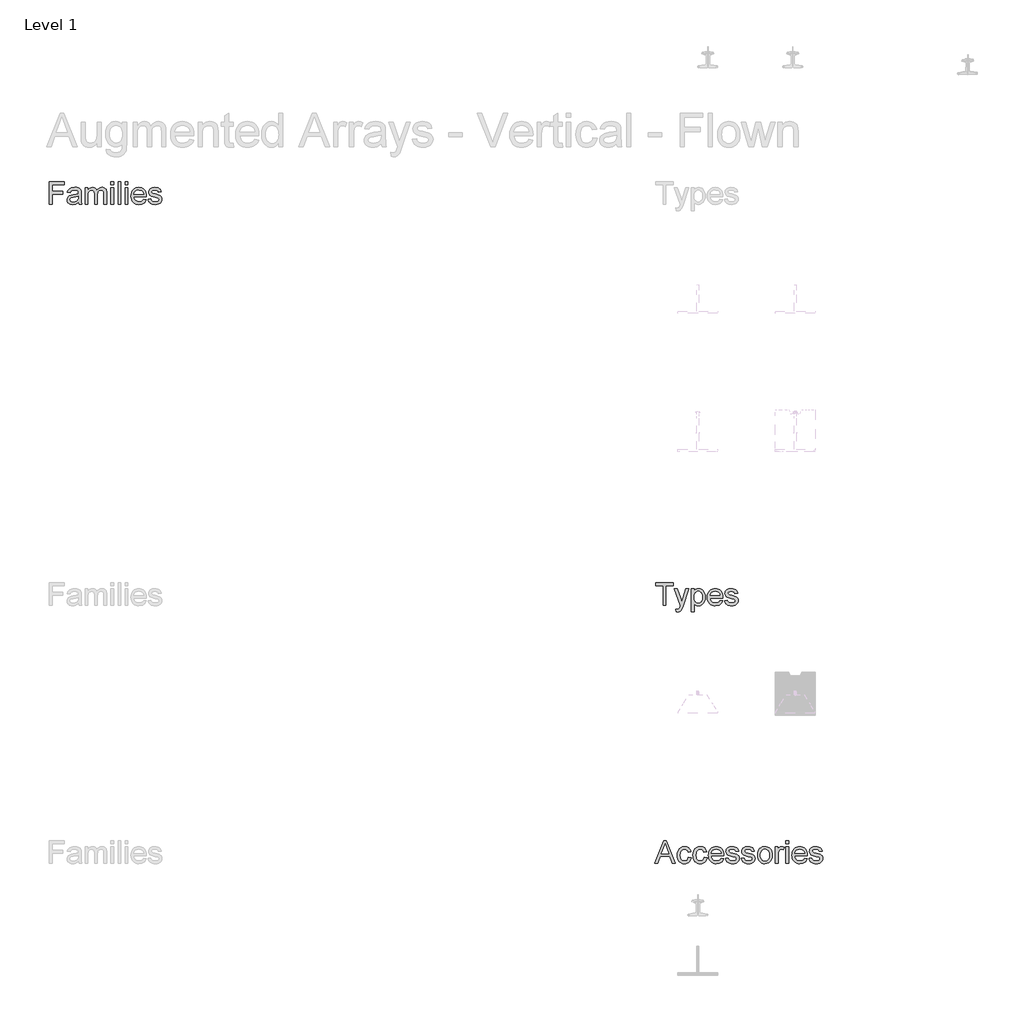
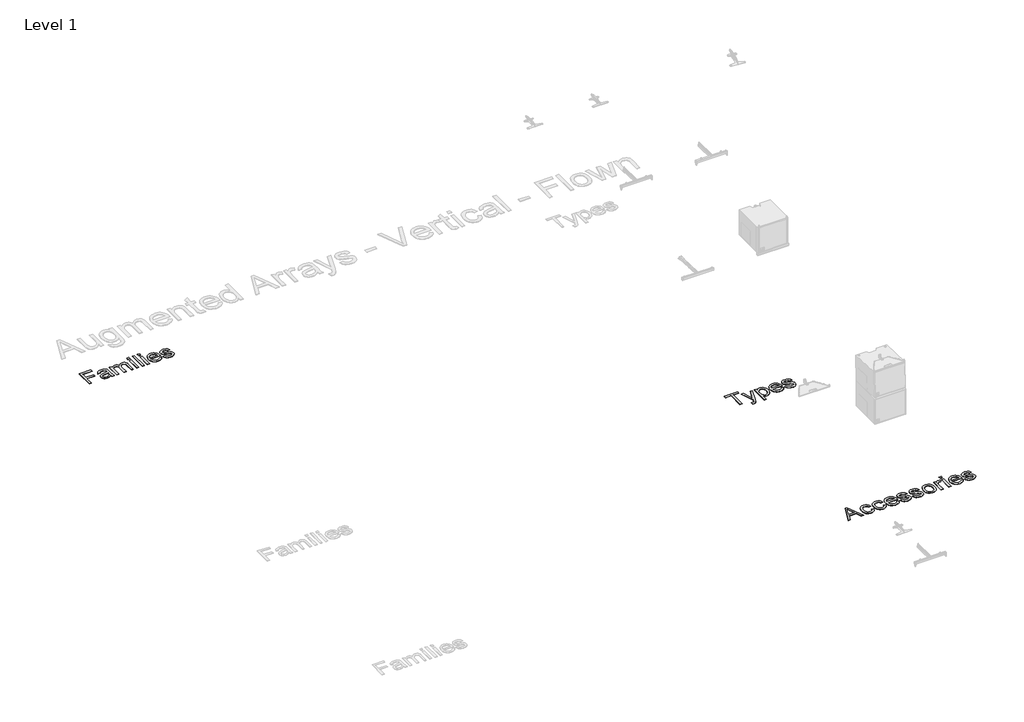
# One storey, part 2 of 9: 3 proxies.
"""IFC4 building model written with IfcOpenShell, lengths in millimetres."""

import ifcopenshell
import ifcopenshell.guid

model = None  # the IFC model being written
_history = None  # IfcOwnerHistory: only IFC2X3 demands one
_inside = {}  # id of a spatial element -> (the spatial element, [elements in it])
_under = {}  # id of a project, library or spatial element -> (it, [spatial elements below it])
_declared = {}  # id of a project -> (the project, [libraries it declares])
_typed = {}  # id of a type object -> (the type object, [elements of that type])
_made_of = {}  # id of a material, layer set ... -> (it, [elements and type objects made of it])


def new_model(schema):
    """Start an empty IFC model of exactly this schema.

    Asked for "IFC4X3", IfcOpenShell would pick the latest addendum, in which some entities
    have other attributes; the version numbers below select the first issue.
    IFC2X3 requires an IfcOwnerHistory on every rooted entity: one is made here for all.
    """
    global model, _history
    if schema == "IFC4X3":
        model = ifcopenshell.file(schema_version=(4, 3, 0, 0))
    else:
        model = ifcopenshell.file(schema=schema)
    _inside.clear()
    _under.clear()
    _declared.clear()
    _typed.clear()
    _made_of.clear()
    _history = None
    if model.schema == "IFC2X3":
        org = make("IfcOrganization", Name="unknown")
        user = make(
            "IfcPersonAndOrganization",
            ThePerson=make("IfcPerson", FamilyName="unknown"),
            TheOrganization=org,
        )
        app = make(
            "IfcApplication",
            ApplicationDeveloper=org,
            Version="unknown",
            ApplicationFullName="unknown",
            ApplicationIdentifier="unknown",
        )
        _history = make(
            "IfcOwnerHistory",
            OwningUser=user,
            OwningApplication=app,
            ChangeAction="ADDED",
            CreationDate=0,
        )
    return model


def make(cls, **values):
    """One entity of the class cls with the attributes given. An attribute that is None is left unset."""
    return model.create_entity(
        cls, **{name: value for name, value in values.items() if value is not None}
    )


def rooted(cls, **values):
    """An entity with a GlobalId (a new one), such as an element, a storey or a relation."""
    return make(cls, GlobalId=ifcopenshell.guid.new(), OwnerHistory=_history, **values)


def si_unit(unit_type, name, prefix=None):
    """IfcSIUnit, for example si_unit("LENGTHUNIT", "METRE", prefix="MILLI")."""
    return make("IfcSIUnit", UnitType=unit_type, Prefix=prefix, Name=name)


def assignment(units):
    """IfcUnitAssignment: the units of a project."""
    return None if units is None else make("IfcUnitAssignment", Units=units)


def point(xyz):
    """IfcCartesianPoint."""
    return None if xyz is None else make("IfcCartesianPoint", Coordinates=xyz)


def direction(xyz):
    """IfcDirection."""
    return None if xyz is None else make("IfcDirection", DirectionRatios=xyz)


def frame(location, z_axis=None, x_axis=None):
    """IfcAxis2Placement3D, a coordinate frame: its origin and axes. An axis left out is left unset."""
    return make(
        "IfcAxis2Placement3D",
        Location=point(location),
        Axis=direction(z_axis),
        RefDirection=direction(x_axis),
    )


def origin():
    """The frame at (0, 0, 0) with its axes left unset."""
    return frame((0.0, 0.0, 0.0))


def origin_with_axes():
    """The frame at (0, 0, 0) with the z axis (0, 0, 1) and the x axis (1, 0, 0) written out."""
    return frame((0.0, 0.0, 0.0), z_axis=(0.0, 0.0, 1.0), x_axis=(1.0, 0.0, 0.0))


def place(relative_to, where):
    """IfcLocalPlacement: puts the frame where relative to a parent placement (None: the world)."""
    return make(
        "IfcLocalPlacement", PlacementRelTo=relative_to, RelativePlacement=where
    )


def context(
    kind, dimensions, precision=None, world=None, true_north=None, identifier=None
):
    """IfcGeometricRepresentationContext, for example the 3D "Model" context."""
    return make(
        "IfcGeometricRepresentationContext",
        ContextIdentifier=identifier,
        ContextType=kind,
        CoordinateSpaceDimension=dimensions,
        Precision=precision,
        WorldCoordinateSystem=world,
        TrueNorth=true_north,
    )


def project(units=None, contexts=None):
    """IfcProject with its units and contexts."""
    return rooted(
        "IfcProject",
        Name="project",
        RepresentationContexts=contexts,
        UnitsInContext=assignment(units),
    )


def spatial(cls, under=None, at=None, **own):
    """A site, building, storey or space (cls), placed at a placement, below another one or the project."""
    s = rooted(cls, ObjectPlacement=at, **own)
    if under is not None:
        _under.setdefault(under.id(), (under, []))[1].append(s)
    return s


def polyline(points):
    """IfcPolyline through the points."""
    return make("IfcPolyline", Points=[point(p) for p in points])


def outline(outer, holes=None, kind="AREA"):
    """IfcArbitraryClosedProfileDef: a profile drawn as a closed curve; with holes, ...WithVoids."""
    if holes is None:
        return make("IfcArbitraryClosedProfileDef", ProfileType=kind, OuterCurve=outer)
    return make(
        "IfcArbitraryProfileDefWithVoids",
        ProfileType=kind,
        OuterCurve=outer,
        InnerCurves=holes,
    )


def extrude(swept, where, along, depth):
    """IfcExtrudedAreaSolid: the profile swept, set in the frame where, extruded along a direction by depth."""
    return make(
        "IfcExtrudedAreaSolid",
        SweptArea=swept,
        Position=where,
        ExtrudedDirection=direction(along),
        Depth=depth,
    )


def shape(context_of_items, identifier, shape_type, items):
    """IfcShapeRepresentation: the items that make up one representation, for example the "Body"."""
    return make(
        "IfcShapeRepresentation",
        ContextOfItems=context_of_items,
        RepresentationIdentifier=identifier,
        RepresentationType=shape_type,
        Items=items,
    )


def made_of(thing, what):
    """Note that an element or type object is made of a material, layer set ...; save() writes the relation."""
    if what is not None:
        _made_of.setdefault(what.id(), (what, []))[1].append(thing)
    return thing


def element(
    cls,
    number,
    at=None,
    inside=None,
    cuts=None,
    type_object=None,
    material=None,
    context=None,
    identifier="Body",
    shape_type=None,
    held_by="IfcProductDefinitionShape",
    body=None,
    shapes=None,
    **own,
):
    """One element of the class cls, such as IfcWall. Its Tag is "e" and its number.

    at: its placement. inside: the storey or other place that contains it. cuts: it is an
    opening in that element (IfcRelVoidsElement). A single representation is given by context,
    identifier, shape_type and body (its items); several are given by shapes. held_by: the class
    of the entity that holds the representations. save() writes the other relations.
    """
    e = rooted(cls, Tag="e%d" % number, ObjectPlacement=at, **own)
    if body is not None:
        shapes = [shape(context, identifier, shape_type, body)]
    if shapes is not None:
        e.Representation = make(held_by, Representations=shapes)
    if inside is not None:
        _inside.setdefault(inside.id(), (inside, []))[1].append(e)
    if cuts is not None:
        rooted(
            "IfcRelVoidsElement", RelatingBuildingElement=cuts, RelatedOpeningElement=e
        )
    if type_object is not None:
        _typed.setdefault(type_object.id(), (type_object, []))[1].append(e)
    return made_of(e, material)


def aggregate(whole, parts):
    """IfcRelAggregates: a whole, such as a stair, and the parts it consists of."""
    return rooted("IfcRelAggregates", RelatingObject=whole, RelatedObjects=parts)


def save(model, path):
    """Write the relations noted so far, then the file.

    IfcRelAggregates (storeys below a building ...), IfcRelContainedInSpatialStructure (elements
    in a storey), IfcRelDefinesByType, IfcRelAssociatesMaterial and IfcRelDeclares: one each for
    every whole, place, type object, material and project.
    """
    for whole, parts in _under.values():
        aggregate(whole, parts)
    for where, things in _inside.values():
        rooted(
            "IfcRelContainedInSpatialStructure",
            RelatedElements=things,
            RelatingStructure=where,
        )
    for kind, things in _typed.values():
        rooted("IfcRelDefinesByType", RelatedObjects=things, RelatingType=kind)
    for what, things in _made_of.values():
        rooted("IfcRelAssociatesMaterial", RelatedObjects=things, RelatingMaterial=what)
    for by, libraries in _declared.values():
        rooted("IfcRelDeclares", RelatingContext=by, RelatedDefinitions=libraries)
    model.write(path)


model = new_model("IFC4")

# Units and contexts
model_context = context("Model", 3, world=origin())
ifc_project = project(units=[si_unit("LENGTHUNIT", "METRE", prefix="MILLI")], contexts=[model_context])

# Site, building, storey
site = spatial("IfcSite", under=ifc_project)
building = spatial("IfcBuilding", under=site)
storey = spatial("IfcBuildingStorey", under=building, Name="Level 1", Elevation=0.0)

# Proxies
placement = place(None, origin())
element("IfcBuildingElementProxy", 1, Name="400mm Arial", ObjectType="400mm Arial", at=placement, inside=storey, context=model_context, shape_type="SweptSolid", body=[
    extrude(outline(polyline([(-21056.720891, -1648.6945164), (-21056.720891, -1256.9369407), (-20793.5087698, -1256.9369407), (-20793.5087698, -1305.9066376), (-21007.7511941, -1305.9066376), (-21007.7511941, -1422.2096679), (-20824.1148304, -1422.2096679), (-20824.1148304, -1471.1793649), (-21007.7511941, -1471.1793649), (-21007.7511941, -1648.6945164), (-21056.720891, -1648.6945164)])), origin_with_axes(), (0.0, 0.0, 1.0), 5.0),
    extrude(outline(polyline([(-20548.660285, -1611.9672437), (-20572.0571836, -1632.02856), (-20596.1475009, -1645.1556907), (-20621.4811893, -1652.4007191), (-20648.6082016, -1654.8157285), (-20670.4120309, -1653.3631362), (-20689.5318522, -1649.0053592), (-20705.9676654, -1641.7423976), (-20719.7194706, -1631.5742513), (-20730.5780466, -1619.1465169), (-20738.3341723, -1605.104791), (-20742.9878477, -1589.4490737), (-20744.5390729, -1572.1793649), (-20742.1957963, -1551.8789388), (-20735.1659668, -1533.4435695), (-20724.3223352, -1517.6623195), (-20710.5376524, -1505.3242513), (-20676.2493001, -1489.2560695), (-20633.879035, -1481.8914861), (-20583.8094327, -1474.144327), (-20548.9472168, -1465.0581528), (-20548.660285, -1454.1547437), (-20552.0317338, -1432.3001035), (-20562.1460804, -1418.0013346), (-20584.7658721, -1407.3848573), (-20616.2805501, -1403.8460316), (-20645.4519516, -1406.2012636), (-20665.8241107, -1413.2669596), (-20679.7163929, -1426.3343128), (-20689.4481638, -1446.6945164), (-20738.4178607, -1440.5733043), (-20729.9175056, -1413.7930013), (-20717.2327282, -1392.7513346), (-20699.1799346, -1376.6592418), (-20674.5755312, -1364.7276604), (-20644.4835568, -1357.339166), (-20609.9680501, -1354.8763346), (-20576.8632916, -1357.0522342), (-20550.6209857, -1363.5799331), (-20530.8346458, -1373.3953924), (-20517.097785, -1385.4345732), (-20507.9876997, -1400.3191613), (-20502.0816865, -1418.6708422), (-20499.690588, -1461.519327), (-20499.690588, -1522.4445164), (-20497.2038456, -1607.5198005), (-20487.4481638, -1648.6945164), (-20536.4178607, -1648.6945164), (-20544.2606638, -1631.6698952), (-20548.660285, -1611.9672437)]), holes=[polyline([(-20548.660285, -1514.0278498), (-20581.5618001, -1522.1814956), (-20627.6621789, -1529.0439482), (-20669.7933342, -1536.9823952), (-20680.7565208, -1542.4101888), (-20688.8743001, -1549.894327), (-20693.8956069, -1558.8609464), (-20695.5693759, -1568.7361831), (-20691.9229507, -1583.2979729), (-20680.9836751, -1595.2295543), (-20662.990659, -1603.1919123), (-20638.1830122, -1605.8460316), (-20611.8809289, -1602.9169359), (-20588.6394516, -1594.129649), (-20569.7975956, -1581.1818507), (-20556.6943759, -1565.771221), (-20550.8840066, -1549.894327), (-20548.9472168, -1527.896221), (-20548.660285, -1514.0278498)])]), origin_with_axes(), (0.0, 0.0, 1.0), 5.0),
    extrude(outline(polyline([(-20432.3572547, -1648.6945164), (-20432.3572547, -1360.9975467), (-20383.3875577, -1360.9975467), (-20383.3875577, -1408.3412967), (-20368.658391, -1386.594256), (-20349.720891, -1369.5576793), (-20327.2206543, -1358.5466708), (-20301.8032774, -1354.8763346), (-20274.5686657, -1358.6184037), (-20252.7379365, -1369.8446111), (-20236.4306448, -1387.8137162), (-20225.7663456, -1411.7844785), (-20207.9167954, -1386.8871656), (-20187.5565918, -1369.1033706), (-20164.6857348, -1358.4330936), (-20139.3042244, -1354.8763346), (-20119.7002057, -1356.3558268), (-20102.4932632, -1360.7943034), (-20087.683397, -1368.1917643), (-20075.2706069, -1378.5482096), (-20065.4581365, -1391.9831942), (-20058.4492291, -1408.6162731), (-20054.2438846, -1428.4474461), (-20052.8421032, -1451.4767134), (-20052.8421032, -1648.6945164), (-20101.8118001, -1648.6945164), (-20101.8118001, -1472.5183801), (-20106.3548872, -1431.630596), (-20112.7391202, -1420.3565666), (-20122.8056448, -1411.4975467), (-20135.7534431, -1405.7589104), (-20150.7814971, -1403.8460316), (-20177.3107348, -1408.7477835), (-20198.9382206, -1423.4530392), (-20207.3279874, -1434.7330463), (-20213.320678, -1448.96606), (-20218.1148304, -1486.2911073), (-20218.1148304, -1648.6945164), (-20267.0845274, -1648.6945164), (-20267.0845274, -1467.0666755), (-20269.9179791, -1439.3777551), (-20278.4183342, -1419.6272816), (-20293.3746552, -1407.7913441), (-20315.5760047, -1403.8460316), (-20334.4417717, -1406.4762399), (-20351.8250577, -1414.3668649), (-20366.1716486, -1427.3266187), (-20375.9273304, -1445.1642134), (-20381.5225009, -1469.9120827), (-20383.3875577, -1503.6026604), (-20383.3875577, -1648.6945164), (-20432.3572547, -1648.6945164)])), origin_with_axes(), (0.0, 0.0, 1.0), 5.0),
    extrude(outline(polyline([(-19979.3875577, -1648.6945164), (-19979.3875577, -1360.9975467), (-19930.4178607, -1360.9975467), (-19930.4178607, -1648.6945164), (-19979.3875577, -1648.6945164)])), origin_with_axes(), (0.0, 0.0, 1.0), 5.0),
    extrude(outline(polyline([(-19979.3875577, -1305.9066376), (-19979.3875577, -1256.9369407), (-19930.4178607, -1256.9369407), (-19930.4178607, -1305.9066376), (-19979.3875577, -1305.9066376)])), origin_with_axes(), (0.0, 0.0, 1.0), 5.0),
    extrude(outline(polyline([(-19856.9633153, -1648.6945164), (-19856.9633153, -1256.9369407), (-19807.9936183, -1256.9369407), (-19807.9936183, -1648.6945164), (-19856.9633153, -1648.6945164)])), origin_with_axes(), (0.0, 0.0, 1.0), 5.0),
    extrude(outline(polyline([(-19734.5390729, -1648.6945164), (-19734.5390729, -1360.9975467), (-19685.5693759, -1360.9975467), (-19685.5693759, -1648.6945164), (-19734.5390729, -1648.6945164)])), origin_with_axes(), (0.0, 0.0, 1.0), 5.0),
    extrude(outline(polyline([(-19734.5390729, -1305.9066376), (-19734.5390729, -1256.9369407), (-19685.5693759, -1256.9369407), (-19685.5693759, -1305.9066376), (-19734.5390729, -1305.9066376)])), origin_with_axes(), (0.0, 0.0, 1.0), 5.0),
    extrude(outline(polyline([(-19410.6886941, -1562.9975467), (-19362.6754365, -1569.1187589), (-19370.0370309, -1588.3491684), (-19379.975034, -1605.2960789), (-19392.4894457, -1619.9594904), (-19407.580266, -1632.3394028), (-19425.0920736, -1642.1727953), (-19444.8694469, -1649.1966471), (-19491.220891, -1654.8157285), (-19521.605775, -1652.3917525), (-19548.6789876, -1645.1198242), (-19572.4405288, -1632.9999437), (-19592.8903986, -1616.0321111), (-19609.3351784, -1594.6885683), (-19621.0814497, -1569.4415571), (-19628.1292125, -1540.2910777), (-19630.4784668, -1507.2371301), (-19628.1053015, -1473.062355), (-19620.9858058, -1442.9404918), (-19609.1199796, -1416.8715406), (-19592.5078229, -1394.8555013), (-19572.1117528, -1377.3646159), (-19548.8941865, -1364.8711263), (-19522.855124, -1357.3750325), (-19493.9945653, -1354.8763346), (-19466.0635461, -1357.3690548), (-19440.8045795, -1364.8472153), (-19418.2176654, -1377.3108161), (-19398.3028039, -1394.7598573), (-19382.0463231, -1416.7280747), (-19370.4345511, -1442.7492039), (-19363.4674879, -1472.8232451), (-19361.1451335, -1506.9501982), (-19361.4320653, -1520.1490619), (-19581.5087698, -1520.1490619), (-19578.6723292, -1539.6903142), (-19573.0323257, -1556.8046017), (-19564.5887592, -1571.4919241), (-19553.3416297, -1583.7522816), (-19524.9234242, -1600.3225941), (-19490.2644516, -1605.8460316), (-19464.2014782, -1603.2875562), (-19442.2511941, -1595.6121301), (-19424.4135994, -1582.3415335), (-19410.6886941, -1562.9975467)]), holes=[polyline([(-19581.5087698, -1471.1793649), (-19410.1148304, -1471.1793649), (-19416.7381732, -1445.3076793), (-19429.721838, -1426.800577), (-19443.076123, -1416.7579634), (-19458.2715539, -1409.5846679), (-19494.1858532, -1403.8460316), (-19527.1949677, -1408.4249852), (-19554.4893569, -1422.161846), (-19573.4627234, -1443.5741329), (-19581.5087698, -1471.1793649)])]), origin_with_axes(), (0.0, 0.0, 1.0), 5.0),
    extrude(outline(polyline([(-19330.5390729, -1562.9975467), (-19281.5693759, -1556.8763346), (-19273.8461278, -1577.8223573), (-19258.9017622, -1593.2210316), (-19236.6406354, -1602.6897816), (-19206.9671032, -1605.8460316), (-19177.6522357, -1602.9528024), (-19157.0409668, -1594.2731149), (-19144.8463645, -1581.6959369), (-19140.7814971, -1567.1102361), (-19144.8702755, -1554.628702), (-19157.1366107, -1545.1121301), (-19207.5409668, -1531.1481149), (-19281.2824441, -1507.1893081), (-19299.9449677, -1495.1501272), (-19313.4666297, -1479.2134558), (-19321.680053, -1460.3955107), (-19324.4178607, -1439.7125089), (-19322.2180501, -1420.7391424), (-19315.6186183, -1403.224346), (-19305.2173399, -1387.8615382), (-19291.6119895, -1375.3441376), (-19260.4798872, -1360.8540808), (-19218.3487319, -1354.8763346), (-19186.4753891, -1357.2793886), (-19158.7625577, -1364.4885505), (-19136.4775198, -1375.7984464), (-19120.8875577, -1390.503702), (-19110.5580122, -1409.6922674), (-19104.0542244, -1434.4520922), (-19153.0239213, -1440.5733043), (-19159.2049109, -1425.1626746), (-19171.4353797, -1413.5538914), (-19189.8348825, -1406.2729965), (-19214.5229744, -1403.8460316), (-19242.6422925, -1406.1653971), (-19261.3885047, -1413.1234937), (-19271.933249, -1423.1661073), (-19275.4481638, -1434.739024), (-19269.6138835, -1448.989971), (-19251.345891, -1459.7977361), (-19209.1669138, -1470.2229255), (-19137.2904933, -1493.2731149), (-19118.3051713, -1504.2960789), (-19103.9107585, -1519.3839104), (-19094.8365397, -1538.5844312), (-19091.8118001, -1561.9454634), (-19095.3625814, -1586.0955581), (-19106.0149251, -1608.8109937), (-19123.3623446, -1628.3104018), (-19146.9983532, -1642.8124142), (-19175.5480691, -1651.8149), (-19207.6366107, -1654.8157285), (-19233.9924938, -1653.369114), (-19257.0127944, -1649.0292702), (-19276.6975127, -1641.7961973), (-19293.0466486, -1631.6698952), (-19306.4009336, -1618.6981859), (-19317.1010994, -1602.9288914), (-19325.1471458, -1584.3620117), (-19330.5390729, -1562.9975467)])), origin_with_axes(), (0.0, 0.0, 1.0), 5.0),
])
element("IfcBuildingElementProxy", 2, Name="400mm Arial", ObjectType="400mm Arial", at=placement, inside=storey, context=model_context, shape_type="SweptSolid", body=[
    extrude(outline(polyline([(-10345.9583027, -8648.6945164), (-10345.9583027, -8305.9066376), (-10474.5037572, -8305.9066376), (-10474.5037572, -8256.9369407), (-10168.4431512, -8256.9369407), (-10168.4431512, -8305.9066376), (-10296.9886057, -8305.9066376), (-10296.9886057, -8648.6945164), (-10345.9583027, -8648.6945164)])), origin_with_axes(), (0.0, 0.0, 1.0), 5.0),
    extrude(outline(polyline([(-10119.4734542, -8758.8763346), (-10125.5946663, -8711.7238725), (-10100.7272421, -8716.0278498), (-10087.6479334, -8714.6768791), (-10077.4857648, -8710.6239672), (-10063.2348179, -8695.5600467), (-10049.8446663, -8659.5022816), (-10046.0189088, -8647.6424331), (-10150.0795148, -8360.9975467), (-10098.4317875, -8360.9975467), (-10043.2452345, -8520.7229255), (-10024.0208027, -8584.613077), (-10004.7963709, -8528.1831528), (-9948.0795148, -8360.9975467), (-9896.8143633, -8360.9975467), (-9996.9535679, -8655.5808801), (-10022.9687194, -8719.4710316), (-10036.2871379, -8739.8671017), (-10051.3749694, -8753.9984937), (-10068.9017213, -8762.2477835), (-10089.5369012, -8764.9975467), (-10119.4734542, -8758.8763346)])), origin_with_axes(), (0.0, 0.0, 1.0), 5.0),
    extrude(outline(polyline([(-9856.261333, -8758.8763346), (-9856.261333, -8360.9975467), (-9807.291636, -8360.9975467), (-9807.291636, -8409.0108043), (-9791.3190982, -8385.3269738), (-9773.4336815, -8368.409952), (-9752.5833027, -8358.259739), (-9727.7158785, -8354.8763346), (-9694.5991644, -8359.6107096), (-9665.6429618, -8373.8138346), (-9642.0667307, -8396.6249142), (-9625.0899315, -8427.1831528), (-9614.832119, -8463.2648289), (-9611.4128482, -8502.646221), (-9615.2744722, -8544.5263109), (-9626.8593444, -8581.9828687), (-9645.7968444, -8613.114971), (-9671.7163519, -8636.0216945), (-9701.9039703, -8650.11722), (-9733.6458027, -8654.8157285), (-9756.1579949, -8651.671434), (-9776.2551777, -8642.2385505), (-9793.4591313, -8627.999559), (-9807.291636, -8610.4369407), (-9807.291636, -8758.8763346), (-9856.261333, -8758.8763346)]), holes=[polyline([(-9807.291636, -8507.1414861), (-9801.9953529, -8551.0420543), (-9795.374999, -8568.0427645), (-9786.1065035, -8581.7437589), (-9762.6617828, -8599.8204634), (-9749.2447314, -8604.3396395), (-9734.697886, -8605.8460316), (-9719.9418195, -8604.2858398), (-9706.2796805, -8599.6052645), (-9682.2371853, -8580.8829634), (-9672.6757802, -8566.6858161), (-9665.8462052, -8549.0574426), (-9660.3825451, -8503.5070164), (-9665.7146947, -8459.8455581), (-9672.3798818, -8442.7133375), (-9681.7111436, -8428.7134558), (-9705.1199978, -8410.0628876), (-9718.3846166, -8405.4002456), (-9732.6893633, -8403.8460316), (-9746.9492769, -8405.4988784), (-9760.3663283, -8410.4574189), (-9784.6718444, -8430.2915808), (-9794.5680032, -8445.0117809), (-9801.6366881, -8462.7268318), (-9805.8778991, -8483.4367335), (-9807.291636, -8507.1414861)])]), origin_with_axes(), (0.0, 0.0, 1.0), 5.0),
    extrude(outline(polyline([(-9354.8958027, -8562.9975467), (-9306.8825451, -8569.1187589), (-9314.2441396, -8588.3491684), (-9324.1821427, -8605.2960789), (-9336.6965544, -8619.9594904), (-9351.7873747, -8632.3394028), (-9369.2991822, -8642.1727953), (-9389.0765555, -8649.1966471), (-9435.4279997, -8654.8157285), (-9465.8128837, -8652.3917525), (-9492.8860963, -8645.1198242), (-9516.6476375, -8632.9999437), (-9537.0975072, -8616.0321111), (-9553.5422871, -8594.6885683), (-9565.2885584, -8569.4415571), (-9572.3363212, -8540.2910777), (-9574.6855754, -8507.2371301), (-9572.3124102, -8473.062355), (-9565.1929144, -8442.9404918), (-9553.3270882, -8416.8715406), (-9536.7149315, -8394.8555013), (-9516.3188614, -8377.3646159), (-9493.1012951, -8364.8711263), (-9467.0622326, -8357.3750325), (-9438.2016739, -8354.8763346), (-9410.2706547, -8357.3690548), (-9385.0116881, -8364.8472153), (-9362.4247741, -8377.3108161), (-9342.5099125, -8394.7598573), (-9326.2534317, -8416.7280747), (-9314.6416597, -8442.7492039), (-9307.6745965, -8472.8232451), (-9305.3522421, -8506.9501982), (-9305.6391739, -8520.1490619), (-9525.7158785, -8520.1490619), (-9522.8794379, -8539.6903142), (-9517.2394343, -8556.8046017), (-9508.7958678, -8571.4919241), (-9497.5487383, -8583.7522816), (-9469.1305328, -8600.3225941), (-9434.4715603, -8605.8460316), (-9408.4085868, -8603.2875562), (-9386.4583027, -8595.6121301), (-9368.620708, -8582.3415335), (-9354.8958027, -8562.9975467)]), holes=[polyline([(-9525.7158785, -8471.1793649), (-9354.3219391, -8471.1793649), (-9360.9452819, -8445.3076793), (-9373.9289466, -8426.800577), (-9387.2832317, -8416.7579634), (-9402.4786625, -8409.5846679), (-9438.3929618, -8403.8460316), (-9471.4020764, -8408.4249852), (-9498.6964656, -8422.161846), (-9517.6698321, -8443.5741329), (-9525.7158785, -8471.1793649)])]), origin_with_axes(), (0.0, 0.0, 1.0), 5.0),
    extrude(outline(polyline([(-9274.7461815, -8562.9975467), (-9225.7764845, -8556.8763346), (-9218.0532364, -8577.8223573), (-9203.1088709, -8593.2210316), (-9180.847744, -8602.6897816), (-9151.1742118, -8605.8460316), (-9121.8593444, -8602.9528024), (-9101.2480754, -8594.2731149), (-9089.0534732, -8581.6959369), (-9084.9886057, -8567.1102361), (-9089.0773841, -8554.628702), (-9101.3437194, -8545.1121301), (-9151.7480754, -8531.1481149), (-9225.4895527, -8507.1893081), (-9244.1520764, -8495.1501272), (-9257.6737383, -8479.2134558), (-9265.8871616, -8460.3955107), (-9268.6249694, -8439.7125089), (-9266.4251588, -8420.7391424), (-9259.8257269, -8403.224346), (-9249.4244485, -8387.8615382), (-9235.8190982, -8375.3441376), (-9204.6869959, -8360.8540808), (-9162.5558406, -8354.8763346), (-9130.6824978, -8357.2793886), (-9102.9696663, -8364.4885505), (-9080.6846285, -8375.7984464), (-9065.0946663, -8390.503702), (-9054.7651209, -8409.6922674), (-9048.261333, -8434.4520922), (-9097.23103, -8440.5733043), (-9103.4120196, -8425.1626746), (-9115.6424883, -8413.5538914), (-9134.0419911, -8406.2729965), (-9158.730083, -8403.8460316), (-9186.8494012, -8406.1653971), (-9205.5956133, -8413.1234937), (-9216.1403576, -8423.1661073), (-9219.6552724, -8434.739024), (-9213.8209921, -8448.989971), (-9195.5529997, -8459.7977361), (-9153.3740224, -8470.2229255), (-9081.4976019, -8493.2731149), (-9062.51228, -8504.2960789), (-9048.1178671, -8519.3839104), (-9039.0436483, -8538.5844312), (-9036.0189088, -8561.9454634), (-9039.56969, -8586.0955581), (-9050.2220338, -8608.8109937), (-9067.5694533, -8628.3104018), (-9091.2054618, -8642.8124142), (-9119.7551777, -8651.8149), (-9151.8437194, -8654.8157285), (-9178.1996024, -8653.369114), (-9201.2199031, -8649.0292702), (-9220.9046214, -8641.7961973), (-9237.2537572, -8631.6698952), (-9250.6080423, -8618.6981859), (-9261.308208, -8602.9288914), (-9269.3542544, -8584.3620117), (-9274.7461815, -8562.9975467)])), origin_with_axes(), (0.0, 0.0, 1.0), 5.0),
])
element("IfcBuildingElementProxy", 3, Name="400mm Arial", ObjectType="400mm Arial", at=placement, inside=storey, context=model_context, shape_type="SweptSolid", body=[
    extrude(outline(polyline([(-10489.5198557, -13148.6945164), (-10333.1420148, -12756.9369407), (-10291.4412572, -12756.9369407), (-10135.0634163, -13148.6945164), (-10186.8067875, -13148.6945164), (-10231.6637951, -13026.270274), (-10393.0151209, -13026.270274), (-10437.7764845, -13148.6945164), (-10489.5198557, -13148.6945164)]), holes=[polyline([(-10375.0340603, -12977.300577), (-10249.5492118, -12977.300577), (-10284.8418254, -12880.9871301), (-10312.291636, -12805.9066376), (-10336.6808406, -12872.5704634), (-10375.0340603, -12977.300577)])]), origin_with_axes(), (0.0, 0.0, 1.0), 5.0),
    extrude(outline(polyline([(-9905.23103, -13044.6339104), (-9856.261333, -13050.7551225), (-9861.5875049, -13073.8621005), (-9869.9145054, -13094.3089814), (-9881.2423344, -13112.0957652), (-9895.5709921, -13127.222452), (-9912.296726, -13139.2945105), (-9930.8157838, -13147.9174094), (-9951.1281654, -13153.0911488), (-9973.2338709, -13154.8157285), (-10000.6986259, -13152.4096857), (-10025.3239514, -13145.1915571), (-10047.1098474, -13133.1613429), (-10066.0563141, -13116.3190429), (-10081.392222, -13094.9814778), (-10092.3464419, -13069.4654681), (-10098.9189739, -13039.7710138), (-10101.1098179, -13005.8981149), (-10097.3677487, -12962.320345), (-10086.1415413, -12924.5529445), (-10067.2518633, -12894.0544833), (-10040.5193822, -12872.2835316), (-10008.53844, -12859.2281339), (-9973.9033785, -12854.8763346), (-9952.1772598, -12856.3707712), (-9932.5254192, -12860.8540808), (-9914.9478564, -12868.3262636), (-9899.4445716, -12878.7873195), (-9886.2785856, -12891.9981386), (-9875.7129192, -12907.7196111), (-9867.7475723, -12925.9517371), (-9862.3825451, -12946.6945164), (-9911.3522421, -12952.8157285), (-9920.235173, -12931.4512636), (-9934.0676777, -12916.1362778), (-9952.0846048, -12906.9185931), (-9973.5208027, -12903.8460316), (-9990.1598593, -12905.3584014), (-10005.1669911, -12909.8955107), (-10018.5421983, -12917.4573597), (-10030.2854807, -12928.0439482), (-10039.8468858, -12941.900364), (-10046.6764608, -12959.2716945), (-10052.1401209, -13004.5590998), (-10046.7960158, -13050.4562352), (-10040.1158844, -13067.9441317), (-10030.7637004, -13081.7915808), (-10019.2535501, -13092.315403), (-10006.0995196, -13099.8324189), (-9991.3016088, -13104.3426284), (-9974.8598179, -13105.8460316), (-9949.5022184, -13102.092007), (-9928.7116171, -13090.8299331), (-9913.5879192, -13071.7728782), (-9905.23103, -13044.6339104)])), origin_with_axes(), (0.0, 0.0, 1.0), 5.0),
    extrude(outline(polyline([(-9629.7764845, -13044.6339104), (-9580.8067875, -13050.7551225), (-9586.1329594, -13073.8621005), (-9594.4599599, -13094.3089814), (-9605.787789, -13112.0957652), (-9620.1164466, -13127.222452), (-9636.8421805, -13139.2945105), (-9655.3612383, -13147.9174094), (-9675.6736199, -13153.0911488), (-9697.7793254, -13154.8157285), (-9725.2440804, -13152.4096857), (-9749.8694059, -13145.1915571), (-9771.655302, -13133.1613429), (-9790.6017686, -13116.3190429), (-9805.9376765, -13094.9814778), (-9816.8918964, -13069.4654681), (-9823.4644284, -13039.7710138), (-9825.6552724, -13005.8981149), (-9821.9132033, -12962.320345), (-9810.6869959, -12924.5529445), (-9791.7973179, -12894.0544833), (-9765.0648368, -12872.2835316), (-9733.0838946, -12859.2281339), (-9698.448833, -12854.8763346), (-9676.7227144, -12856.3707712), (-9657.0708737, -12860.8540808), (-9639.493311, -12868.3262636), (-9623.9900262, -12878.7873195), (-9610.8240402, -12891.9981386), (-9600.2583737, -12907.7196111), (-9592.2930269, -12925.9517371), (-9586.9279997, -12946.6945164), (-9635.8976966, -12952.8157285), (-9644.7806275, -12931.4512636), (-9658.6131322, -12916.1362778), (-9676.6300593, -12906.9185931), (-9698.0662572, -12903.8460316), (-9714.7053138, -12905.3584014), (-9729.7124457, -12909.8955107), (-9743.0876528, -12917.4573597), (-9754.8309353, -12928.0439482), (-9764.3923403, -12941.900364), (-9771.2219154, -12959.2716945), (-9776.6855754, -13004.5590998), (-9771.3414703, -13050.4562352), (-9764.6613389, -13067.9441317), (-9755.309155, -13081.7915808), (-9743.7990046, -13092.315403), (-9730.6449741, -13099.8324189), (-9715.8470634, -13104.3426284), (-9699.4052724, -13105.8460316), (-9674.047673, -13102.092007), (-9653.2570716, -13090.8299331), (-9638.1333737, -13071.7728782), (-9629.7764845, -13044.6339104)])), origin_with_axes(), (0.0, 0.0, 1.0), 5.0),
    extrude(outline(polyline([(-9336.5321663, -13062.9975467), (-9288.5189088, -13069.1187589), (-9295.8805032, -13088.3491684), (-9305.8185063, -13105.2960789), (-9318.332918, -13119.9594904), (-9333.4237383, -13132.3394028), (-9350.9355458, -13142.1727953), (-9370.7129192, -13149.1966471), (-9417.0643633, -13154.8157285), (-9447.4492473, -13152.3917525), (-9474.5224599, -13145.1198242), (-9498.2840011, -13132.9999437), (-9518.7338709, -13116.0321111), (-9535.1786507, -13094.6885683), (-9546.924922, -13069.4415571), (-9553.9726848, -13040.2910777), (-9556.3219391, -13007.2371301), (-9553.9487738, -12973.062355), (-9546.8292781, -12942.9404918), (-9534.9634518, -12916.8715406), (-9518.3512951, -12894.8555013), (-9497.955225, -12877.3646159), (-9474.7376588, -12864.8711263), (-9448.6985963, -12857.3750325), (-9419.8380375, -12854.8763346), (-9391.9070184, -12857.3690548), (-9366.6480518, -12864.8472153), (-9344.0611377, -12877.3108161), (-9324.1462762, -12894.7598573), (-9307.8897954, -12916.7280747), (-9296.2780233, -12942.7492039), (-9289.3109601, -12972.8232451), (-9286.9886057, -13006.9501982), (-9287.2755375, -13020.1490619), (-9507.3522421, -13020.1490619), (-9504.5158015, -13039.6903142), (-9498.875798, -13056.8046017), (-9490.4322314, -13071.4919241), (-9479.1851019, -13083.7522816), (-9450.7668964, -13100.3225941), (-9416.1079239, -13105.8460316), (-9390.0449504, -13103.2875562), (-9368.0946663, -13095.6121301), (-9350.2570716, -13082.3415335), (-9336.5321663, -13062.9975467)]), holes=[polyline([(-9507.3522421, -12971.1793649), (-9335.9583027, -12971.1793649), (-9342.5816455, -12945.3076793), (-9355.5653103, -12926.800577), (-9368.9195953, -12916.7579634), (-9384.1150262, -12909.5846679), (-9420.0293254, -12903.8460316), (-9453.03844, -12908.4249852), (-9480.3328292, -12922.161846), (-9499.3061957, -12943.5741329), (-9507.3522421, -12971.1793649)])]), origin_with_axes(), (0.0, 0.0, 1.0), 5.0),
    extrude(outline(polyline([(-9256.3825451, -13062.9975467), (-9207.4128482, -13056.8763346), (-9199.6896, -13077.8223573), (-9184.7452345, -13093.2210316), (-9162.4841076, -13102.6897816), (-9132.8105754, -13105.8460316), (-9103.495708, -13102.9528024), (-9082.8844391, -13094.2731149), (-9070.6898368, -13081.6959369), (-9066.6249694, -13067.1102361), (-9070.7137478, -13054.628702), (-9082.980083, -13045.1121301), (-9133.3844391, -13031.1481149), (-9207.1259163, -13007.1893081), (-9225.78844, -12995.1501272), (-9239.3101019, -12979.2134558), (-9247.5235252, -12960.3955107), (-9250.261333, -12939.7125089), (-9248.0615224, -12920.7391424), (-9241.4620906, -12903.224346), (-9231.0608122, -12887.8615382), (-9217.4554618, -12875.3441376), (-9186.3233595, -12860.8540808), (-9144.1922042, -12854.8763346), (-9112.3188614, -12857.2793886), (-9084.60603, -12864.4885505), (-9062.3209921, -12875.7984464), (-9046.73103, -12890.503702), (-9036.4014845, -12909.6922674), (-9029.8976966, -12934.4520922), (-9078.8673936, -12940.5733043), (-9085.0483832, -12925.1626746), (-9097.2788519, -12913.5538914), (-9115.6783548, -12906.2729965), (-9140.3664466, -12903.8460316), (-9168.4857648, -12906.1653971), (-9187.2319769, -12913.1234937), (-9197.7767213, -12923.1661073), (-9201.291636, -12934.739024), (-9195.4573557, -12948.989971), (-9177.1893633, -12959.7977361), (-9135.010386, -12970.2229255), (-9063.1339656, -12993.2731149), (-9044.1486436, -13004.2960789), (-9029.7542307, -13019.3839104), (-9020.680012, -13038.5844312), (-9017.6552724, -13061.9454634), (-9021.2060536, -13086.0955581), (-9031.8583974, -13108.8109937), (-9049.2058169, -13128.3104018), (-9072.8418254, -13142.8124142), (-9101.3915413, -13151.8149), (-9133.480083, -13154.8157285), (-9159.8359661, -13153.369114), (-9182.8562667, -13149.0292702), (-9202.540985, -13141.7961973), (-9218.8901209, -13131.6698952), (-9232.2444059, -13118.6981859), (-9242.9445716, -13102.9288914), (-9250.990618, -13084.3620117), (-9256.3825451, -13062.9975467)])), origin_with_axes(), (0.0, 0.0, 1.0), 5.0),
    extrude(outline(polyline([(-8980.9279997, -13062.9975467), (-8931.9583027, -13056.8763346), (-8924.2350546, -13077.8223573), (-8909.2906891, -13093.2210316), (-8887.0295622, -13102.6897816), (-8857.35603, -13105.8460316), (-8828.0411625, -13102.9528024), (-8807.4298936, -13094.2731149), (-8795.2352913, -13081.6959369), (-8791.1704239, -13067.1102361), (-8795.2592023, -13054.628702), (-8807.5255375, -13045.1121301), (-8857.9298936, -13031.1481149), (-8931.6713709, -13007.1893081), (-8950.3338946, -12995.1501272), (-8963.8555565, -12979.2134558), (-8972.0689798, -12960.3955107), (-8974.8067875, -12939.7125089), (-8972.6069769, -12920.7391424), (-8966.0075451, -12903.224346), (-8955.6062667, -12887.8615382), (-8942.0009163, -12875.3441376), (-8910.8688141, -12860.8540808), (-8868.7376588, -12854.8763346), (-8836.864316, -12857.2793886), (-8809.1514845, -12864.4885505), (-8786.8664466, -12875.7984464), (-8771.2764845, -12890.503702), (-8760.9469391, -12909.6922674), (-8754.4431512, -12934.4520922), (-8803.4128482, -12940.5733043), (-8809.5938377, -12925.1626746), (-8821.8243065, -12913.5538914), (-8840.2238093, -12906.2729965), (-8864.9119012, -12903.8460316), (-8893.0312194, -12906.1653971), (-8911.7774315, -12913.1234937), (-8922.3221758, -12923.1661073), (-8925.8370906, -12934.739024), (-8920.0028103, -12948.989971), (-8901.7348179, -12959.7977361), (-8859.5558406, -12970.2229255), (-8787.6794201, -12993.2731149), (-8768.6940982, -13004.2960789), (-8754.2996853, -13019.3839104), (-8745.2254665, -13038.5844312), (-8742.2007269, -13061.9454634), (-8745.7515082, -13086.0955581), (-8756.4038519, -13108.8109937), (-8773.7512714, -13128.3104018), (-8797.38728, -13142.8124142), (-8825.9369959, -13151.8149), (-8858.0255375, -13154.8157285), (-8884.3814206, -13153.369114), (-8907.4017213, -13149.0292702), (-8927.0864395, -13141.7961973), (-8943.4355754, -13131.6698952), (-8956.7898605, -13118.6981859), (-8967.4900262, -13102.9288914), (-8975.5360726, -13084.3620117), (-8980.9279997, -13062.9975467)])), origin_with_axes(), (0.0, 0.0, 1.0), 5.0),
    extrude(outline(polyline([(-8699.3522421, -13004.8460316), (-8696.7041005, -12967.5867394), (-8688.7596758, -12935.4802645), (-8675.5189679, -12908.5266069), (-8656.9819769, -12886.7257664), (-8638.3194533, -12872.79164), (-8617.7201398, -12862.8386926), (-8595.1840366, -12856.8669241), (-8570.7111436, -12854.8763346), (-8543.6947196, -12857.3003107), (-8519.2666597, -12864.572239), (-8497.4269639, -12876.6921194), (-8478.1756322, -12893.659952), (-8462.4631263, -12914.9018732), (-8451.2399078, -12939.8440193), (-8444.5059767, -12968.4863902), (-8442.261333, -13000.8289861), (-8446.2305565, -13050.3008138), (-8458.1382269, -13087.9606149), (-8477.6376351, -13116.1636215), (-8504.3820716, -13137.2650657), (-8536.147815, -13150.4280628), (-8570.7111436, -13154.8157285), (-8598.1220989, -13152.4007191), (-8622.7773131, -13145.1556907), (-8644.6767864, -13133.0806433), (-8663.8205186, -13116.175577), (-8679.3656476, -13094.7274236), (-8690.4693112, -13069.0231149), (-8697.1315094, -13039.0626509), (-8699.3522421, -13004.8460316)]), holes=[polyline([(-8650.3825451, -13004.7503876), (-8648.9658193, -13028.5029622), (-8644.7156417, -13049.0693981), (-8637.6320125, -13066.4496952), (-8627.7149315, -13080.6438535), (-8615.6518396, -13091.6698064), (-8602.1301777, -13099.5454871), (-8587.1499457, -13104.2708955), (-8570.7111436, -13105.8460316), (-8554.35603, -13104.2619288), (-8539.4355754, -13099.5096206), (-8525.94978, -13091.5891069), (-8513.8986436, -13080.5003876), (-8503.9815626, -13066.1657522), (-8496.8979334, -13048.5074899), (-8492.6477558, -13027.5256007), (-8491.23103, -13003.2200846), (-8492.6567224, -12980.2207061), (-8496.9337999, -12960.1922674), (-8504.0622622, -12943.1347686), (-8514.0421095, -12929.0482096), (-8526.138079, -12918.0222567), (-8539.6149078, -12910.1465761), (-8554.472596, -12905.4211677), (-8570.7111436, -12903.8460316), (-8587.1499457, -12905.41519), (-8602.1301777, -12910.1226651), (-8615.6518396, -12917.968457), (-8627.7149315, -12928.9525657), (-8637.6320125, -12943.1048798), (-8644.7156417, -12960.4552882), (-8648.9658193, -12981.0037908), (-8650.3825451, -13004.7503876)])]), origin_with_axes(), (0.0, 0.0, 1.0), 5.0),
    extrude(outline(polyline([(-8387.1704239, -13148.6945164), (-8387.1704239, -12860.9975467), (-8344.3219391, -12860.9975467), (-8344.3219391, -12903.5590998), (-8328.4928671, -12878.8829634), (-8313.9071663, -12864.3450846), (-8299.2736436, -12857.2435221), (-8283.3011057, -12854.8763346), (-8258.9119012, -12858.6542702), (-8234.1401209, -12869.988077), (-8250.4952345, -12913.8886452), (-8267.7111436, -12906.356685), (-8284.9270527, -12903.8460316), (-8299.5486199, -12906.261041), (-8312.6159732, -12913.5060695), (-8323.172673, -12925.0311642), (-8330.26228, -12940.2863725), (-8336.2161152, -12967.6405392), (-8338.2007269, -12997.4814482), (-8338.2007269, -13148.6945164), (-8387.1704239, -13148.6945164)])), origin_with_axes(), (0.0, 0.0, 1.0), 5.0),
    extrude(outline(polyline([(-8203.5340603, -13148.6945164), (-8203.5340603, -12860.9975467), (-8154.5643633, -12860.9975467), (-8154.5643633, -13148.6945164), (-8203.5340603, -13148.6945164)])), origin_with_axes(), (0.0, 0.0, 1.0), 5.0),
    extrude(outline(polyline([(-8203.5340603, -12805.9066376), (-8203.5340603, -12756.9369407), (-8154.5643633, -12756.9369407), (-8154.5643633, -12805.9066376), (-8203.5340603, -12805.9066376)])), origin_with_axes(), (0.0, 0.0, 1.0), 5.0),
    extrude(outline(polyline([(-7879.6836815, -13062.9975467), (-7831.6704239, -13069.1187589), (-7839.0320184, -13088.3491684), (-7848.9700214, -13105.2960789), (-7861.4844331, -13119.9594904), (-7876.5752535, -13132.3394028), (-7894.087061, -13142.1727953), (-7913.8644343, -13149.1966471), (-7960.2158785, -13154.8157285), (-7990.6007625, -13152.3917525), (-8017.673975, -13145.1198242), (-8041.4355162, -13132.9999437), (-8061.885386, -13116.0321111), (-8078.3301659, -13094.6885683), (-8090.0764372, -13069.4415571), (-8097.1242, -13040.2910777), (-8099.4734542, -13007.2371301), (-8097.100289, -12973.062355), (-8089.9807932, -12942.9404918), (-8078.114967, -12916.8715406), (-8061.5028103, -12894.8555013), (-8041.1067402, -12877.3646159), (-8017.8891739, -12864.8711263), (-7991.8501114, -12857.3750325), (-7962.9895527, -12854.8763346), (-7935.0585335, -12857.3690548), (-7909.7995669, -12864.8472153), (-7887.2126528, -12877.3108161), (-7867.2977913, -12894.7598573), (-7851.0413105, -12916.7280747), (-7839.4295385, -12942.7492039), (-7832.4624753, -12972.8232451), (-7830.1401209, -13006.9501982), (-7830.4270527, -13020.1490619), (-8050.5037572, -13020.1490619), (-8047.6673167, -13039.6903142), (-8042.0273131, -13056.8046017), (-8033.5837466, -13071.4919241), (-8022.3366171, -13083.7522816), (-7993.9184116, -13100.3225941), (-7959.2594391, -13105.8460316), (-7933.1964656, -13103.2875562), (-7911.2461815, -13095.6121301), (-7893.4085868, -13082.3415335), (-7879.6836815, -13062.9975467)]), holes=[polyline([(-8050.5037572, -12971.1793649), (-7879.1098179, -12971.1793649), (-7885.7331607, -12945.3076793), (-7898.7168254, -12926.800577), (-7912.0711105, -12916.7579634), (-7927.2665413, -12909.5846679), (-7963.1808406, -12903.8460316), (-7996.1899552, -12908.4249852), (-8023.4843444, -12922.161846), (-8042.4577108, -12943.5741329), (-8050.5037572, -12971.1793649)])]), origin_with_axes(), (0.0, 0.0, 1.0), 5.0),
    extrude(outline(polyline([(-7799.5340603, -13062.9975467), (-7750.5643633, -13056.8763346), (-7742.8411152, -13077.8223573), (-7727.8967497, -13093.2210316), (-7705.6356228, -13102.6897816), (-7675.9620906, -13105.8460316), (-7646.6472232, -13102.9528024), (-7626.0359542, -13094.2731149), (-7613.8413519, -13081.6959369), (-7609.7764845, -13067.1102361), (-7613.8652629, -13054.628702), (-7626.1315982, -13045.1121301), (-7676.5359542, -13031.1481149), (-7750.2774315, -13007.1893081), (-7768.9399552, -12995.1501272), (-7782.4616171, -12979.2134558), (-7790.6750404, -12960.3955107), (-7793.4128482, -12939.7125089), (-7791.2130375, -12920.7391424), (-7784.6136057, -12903.224346), (-7774.2123273, -12887.8615382), (-7760.6069769, -12875.3441376), (-7729.4748747, -12860.8540808), (-7687.3437194, -12854.8763346), (-7655.4703766, -12857.2793886), (-7627.7575451, -12864.4885505), (-7605.4725072, -12875.7984464), (-7589.8825451, -12890.503702), (-7579.5529997, -12909.6922674), (-7573.0492118, -12934.4520922), (-7622.0189088, -12940.5733043), (-7628.1998983, -12925.1626746), (-7640.4303671, -12913.5538914), (-7658.8298699, -12906.2729965), (-7683.5179618, -12903.8460316), (-7711.63728, -12906.1653971), (-7730.3834921, -12913.1234937), (-7740.9282364, -12923.1661073), (-7744.4431512, -12934.739024), (-7738.6088709, -12948.989971), (-7720.3408785, -12959.7977361), (-7678.1619012, -12970.2229255), (-7606.2854807, -12993.2731149), (-7587.3001588, -13004.2960789), (-7572.9057459, -13019.3839104), (-7563.8315271, -13038.5844312), (-7560.8067875, -13061.9454634), (-7564.3575688, -13086.0955581), (-7575.0099125, -13108.8109937), (-7592.3573321, -13128.3104018), (-7615.9933406, -13142.8124142), (-7644.5430565, -13151.8149), (-7676.6315982, -13154.8157285), (-7702.9874812, -13153.369114), (-7726.0077819, -13149.0292702), (-7745.6925001, -13141.7961973), (-7762.041636, -13131.6698952), (-7775.3959211, -13118.6981859), (-7786.0960868, -13102.9288914), (-7794.1421332, -13084.3620117), (-7799.5340603, -13062.9975467)])), origin_with_axes(), (0.0, 0.0, 1.0), 5.0),
])

save(model, "model.ifc")
